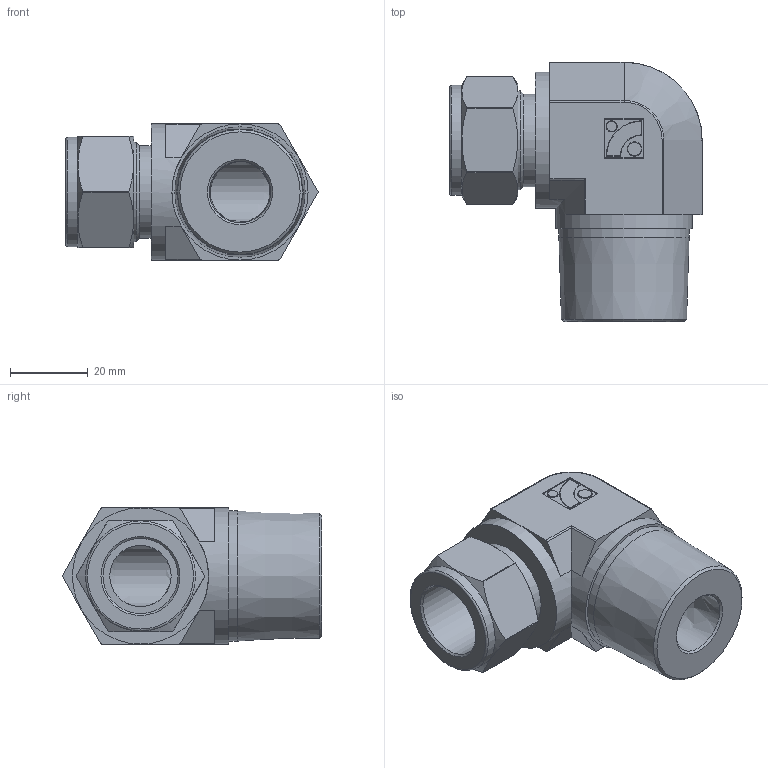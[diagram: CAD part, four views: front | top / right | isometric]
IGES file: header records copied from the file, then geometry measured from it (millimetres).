
Global section: file name: No Iges File Name specified; native system: Autodesk Inventor 2012; preprocessor: AutoDesk Inventor Iges Exporter R2012; author: 硅己绕,,1; organization: 1; date: 20150703.114427; units: millimetre
Bounding box: 64.77 x 66.57 x 34.9 mm (x, y, z)
Volume: 59461.1 mm3; surface area: 16358.7 mm2
Topology: 1 solids, 1 shells, 128 faces, 287 edges, 166 vertices
Faces by surface type: plane 42, cylinder 35, revolution 28, torus 12, cone 7, sphere 4
Full cylindrical faces by diameter (mm): 2.7 x1, 3.6 x1, 23.7 x1, 25.4 x1, 28.2 x1, 33.4 x1, 34.9 x2
